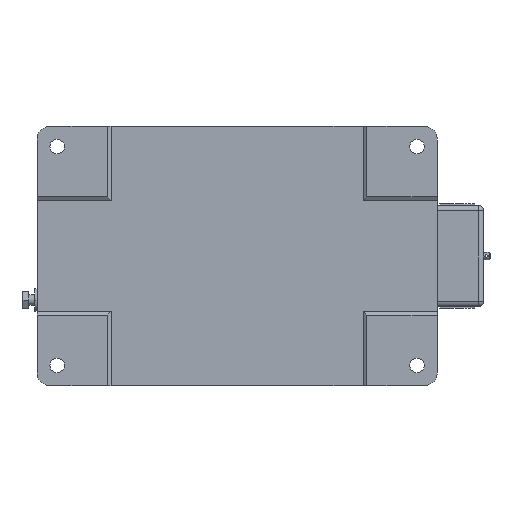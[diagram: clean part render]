
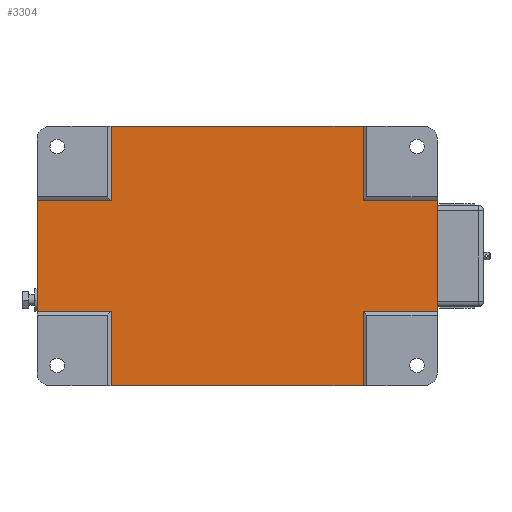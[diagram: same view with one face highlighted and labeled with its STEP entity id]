
A CAD part, front view. The second image highlights one B-rep face of the part: STEP entity #3304.
In plain terms, the highlighted planar face has unit normal (0, -1, 0).
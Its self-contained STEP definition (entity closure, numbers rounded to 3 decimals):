
#91 = VERTEX_POINT ( 'NONE', #5493 ) ;
#124 = VECTOR ( 'NONE', #6215, 1000. ) ;
#168 = CARTESIAN_POINT ( 'NONE',  ( 51.144, 2., 103. ) ) ;
#325 = DIRECTION ( 'NONE',  ( 0., 0., 1. ) ) ;
#386 = CARTESIAN_POINT ( 'NONE',  ( 110., 2., 44.144 ) ) ;
#426 = ORIENTED_EDGE ( 'NONE', *, *, #3702, .T. ) ;
#454 = LINE ( 'NONE', #1399, #903 ) ;
#522 = LINE ( 'NONE', #4587, #2861 ) ;
#551 = VERTEX_POINT ( 'NONE', #4004 ) ;
#555 = DIRECTION ( 'NONE',  ( 0., 0., 1. ) ) ;
#623 = DIRECTION ( 'NONE',  ( 0., 1., 0. ) ) ;
#703 = CARTESIAN_POINT ( 'NONE',  ( 51.144, 2., -103. ) ) ;
#753 = LINE ( 'NONE', #703, #9337 ) ;
#903 = VECTOR ( 'NONE', #2876, 1000. ) ;
#919 = VERTEX_POINT ( 'NONE', #2170 ) ;
#1168 = CARTESIAN_POINT ( 'NONE',  ( 110., 2., -44.144 ) ) ;
#1208 = VERTEX_POINT ( 'NONE', #8093 ) ;
#1221 = EDGE_LOOP ( 'NONE', ( #6154, #426, #6924, #7474, #4507, #4771, #2850, #9064, #6418, #9151, #7848, #5618 ) ) ;
#1353 = LINE ( 'NONE', #5982, #8037 ) ;
#1399 = CARTESIAN_POINT ( 'NONE',  ( -149.144, 2., -103. ) ) ;
#1420 = FACE_OUTER_BOUND ( 'NONE', #1221, .T. ) ;
#1554 = DIRECTION ( 'NONE',  ( 1., 0., 0. ) ) ;
#1700 = VECTOR ( 'NONE', #5218, 1000. ) ;
#1825 = LINE ( 'NONE', #7301, #7546 ) ;
#2170 = CARTESIAN_POINT ( 'NONE',  ( -208., 2., 44.144 ) ) ;
#2404 = LINE ( 'NONE', #5454, #124 ) ;
#2445 = VERTEX_POINT ( 'NONE', #9575 ) ;
#2549 = VERTEX_POINT ( 'NONE', #1168 ) ;
#2850 = ORIENTED_EDGE ( 'NONE', *, *, #9573, .T. ) ;
#2861 = VECTOR ( 'NONE', #5018, 1000. ) ;
#2876 = DIRECTION ( 'NONE',  ( 0., 0., 1. ) ) ;
#3155 = EDGE_CURVE ( 'NONE', #7586, #1208, #1825, .T. ) ;
#3184 = EDGE_CURVE ( 'NONE', #4319, #2445, #7147, .T. ) ;
#3304 = ADVANCED_FACE ( 'NONE', ( #1420 ), #7605, .F. ) ;
#3618 = EDGE_CURVE ( 'NONE', #7557, #9816, #1353, .T. ) ;
#3661 = VERTEX_POINT ( 'NONE', #9977 ) ;
#3702 = EDGE_CURVE ( 'NONE', #7557, #4319, #753, .T. ) ;
#3731 = EDGE_CURVE ( 'NONE', #3661, #919, #4586, .T. ) ;
#3797 = DIRECTION ( 'NONE',  ( 0., 0., 1. ) ) ;
#3875 = CARTESIAN_POINT ( 'NONE',  ( 51.144, 2., 44.144 ) ) ;
#3954 = AXIS2_PLACEMENT_3D ( 'NONE', #7756, #623, #9990 ) ;
#3971 = DIRECTION ( 'NONE',  ( -1., 0., 0. ) ) ;
#4004 = CARTESIAN_POINT ( 'NONE',  ( 51.144, 2., -44.144 ) ) ;
#4220 = CARTESIAN_POINT ( 'NONE',  ( 51.144, 2., -103. ) ) ;
#4319 = VERTEX_POINT ( 'NONE', #8270 ) ;
#4327 = VECTOR ( 'NONE', #6590, 1000. ) ;
#4435 = CARTESIAN_POINT ( 'NONE',  ( -149.144, 2., -44.144 ) ) ;
#4441 = VECTOR ( 'NONE', #9434, 1000. ) ;
#4507 = ORIENTED_EDGE ( 'NONE', *, *, #9376, .F. ) ;
#4586 = LINE ( 'NONE', #8543, #9179 ) ;
#4587 = CARTESIAN_POINT ( 'NONE',  ( -208., 2., -44.144 ) ) ;
#4771 = ORIENTED_EDGE ( 'NONE', *, *, #3731, .F. ) ;
#5018 = DIRECTION ( 'NONE',  ( 1., 0., 0. ) ) ;
#5218 = DIRECTION ( 'NONE',  ( 1., 0., 0. ) ) ;
#5454 = CARTESIAN_POINT ( 'NONE',  ( -149.144, 2., -103. ) ) ;
#5493 = CARTESIAN_POINT ( 'NONE',  ( -149.144, 2., 44.144 ) ) ;
#5532 = LINE ( 'NONE', #386, #4327 ) ;
#5618 = ORIENTED_EDGE ( 'NONE', *, *, #8379, .T. ) ;
#5739 = LINE ( 'NONE', #7201, #8261 ) ;
#5883 = CARTESIAN_POINT ( 'NONE',  ( -208., 2., 44.144 ) ) ;
#5982 = CARTESIAN_POINT ( 'NONE',  ( -208., 2., 44.144 ) ) ;
#6068 = VECTOR ( 'NONE', #9479, 1000. ) ;
#6096 = CARTESIAN_POINT ( 'NONE',  ( -208., 2., -44.144 ) ) ;
#6154 = ORIENTED_EDGE ( 'NONE', *, *, #3618, .F. ) ;
#6215 = DIRECTION ( 'NONE',  ( 0., 0., 1. ) ) ;
#6418 = ORIENTED_EDGE ( 'NONE', *, *, #3155, .F. ) ;
#6590 = DIRECTION ( 'NONE',  ( 0., 0., 1. ) ) ;
#6894 = EDGE_CURVE ( 'NONE', #551, #2549, #522, .T. ) ;
#6924 = ORIENTED_EDGE ( 'NONE', *, *, #3184, .T. ) ;
#7147 = LINE ( 'NONE', #168, #6068 ) ;
#7201 = CARTESIAN_POINT ( 'NONE',  ( 51.144, 2., -103. ) ) ;
#7301 = CARTESIAN_POINT ( 'NONE',  ( 51.144, 2., -103. ) ) ;
#7474 = ORIENTED_EDGE ( 'NONE', *, *, #9829, .F. ) ;
#7546 = VECTOR ( 'NONE', #3971, 1000. ) ;
#7557 = VERTEX_POINT ( 'NONE', #3875 ) ;
#7586 = VERTEX_POINT ( 'NONE', #4220 ) ;
#7605 = PLANE ( 'NONE',  #3954 ) ;
#7666 = EDGE_CURVE ( 'NONE', #7586, #551, #5739, .T. ) ;
#7756 = CARTESIAN_POINT ( 'NONE',  ( -208., 2., 44.144 ) ) ;
#7848 = ORIENTED_EDGE ( 'NONE', *, *, #6894, .T. ) ;
#8037 = VECTOR ( 'NONE', #1554, 1000. ) ;
#8093 = CARTESIAN_POINT ( 'NONE',  ( -149.144, 2., -103. ) ) ;
#8194 = LINE ( 'NONE', #5883, #4441 ) ;
#8261 = VECTOR ( 'NONE', #325, 1000. ) ;
#8270 = CARTESIAN_POINT ( 'NONE',  ( 51.144, 2., 103. ) ) ;
#8379 = EDGE_CURVE ( 'NONE', #2549, #9816, #5532, .T. ) ;
#8543 = CARTESIAN_POINT ( 'NONE',  ( -208., 2., 44.144 ) ) ;
#8625 = EDGE_CURVE ( 'NONE', #1208, #9936, #2404, .T. ) ;
#9064 = ORIENTED_EDGE ( 'NONE', *, *, #8625, .F. ) ;
#9151 = ORIENTED_EDGE ( 'NONE', *, *, #7666, .T. ) ;
#9179 = VECTOR ( 'NONE', #555, 1000. ) ;
#9337 = VECTOR ( 'NONE', #3797, 1000. ) ;
#9376 = EDGE_CURVE ( 'NONE', #919, #91, #8194, .T. ) ;
#9434 = DIRECTION ( 'NONE',  ( 1., 0., 0. ) ) ;
#9479 = DIRECTION ( 'NONE',  ( -1., 0., 0. ) ) ;
#9573 = EDGE_CURVE ( 'NONE', #3661, #9936, #9883, .T. ) ;
#9575 = CARTESIAN_POINT ( 'NONE',  ( -149.144, 2., 103. ) ) ;
#9812 = CARTESIAN_POINT ( 'NONE',  ( 110., 2., 44.144 ) ) ;
#9816 = VERTEX_POINT ( 'NONE', #9812 ) ;
#9829 = EDGE_CURVE ( 'NONE', #91, #2445, #454, .T. ) ;
#9883 = LINE ( 'NONE', #6096, #1700 ) ;
#9936 = VERTEX_POINT ( 'NONE', #4435 ) ;
#9977 = CARTESIAN_POINT ( 'NONE',  ( -208., 2., -44.144 ) ) ;
#9990 = DIRECTION ( 'NONE',  ( -1., 0., 0. ) ) ;
